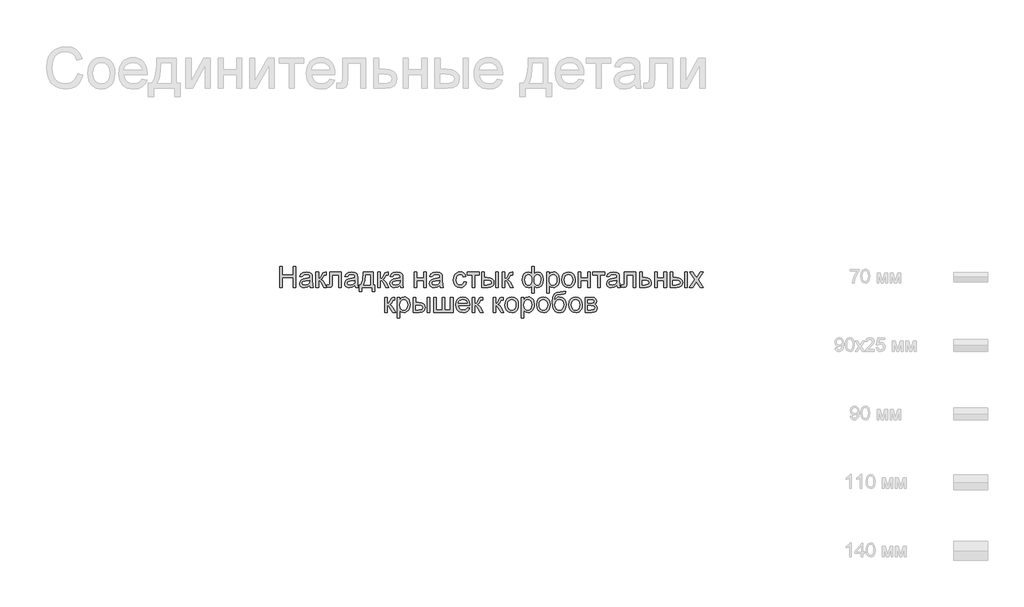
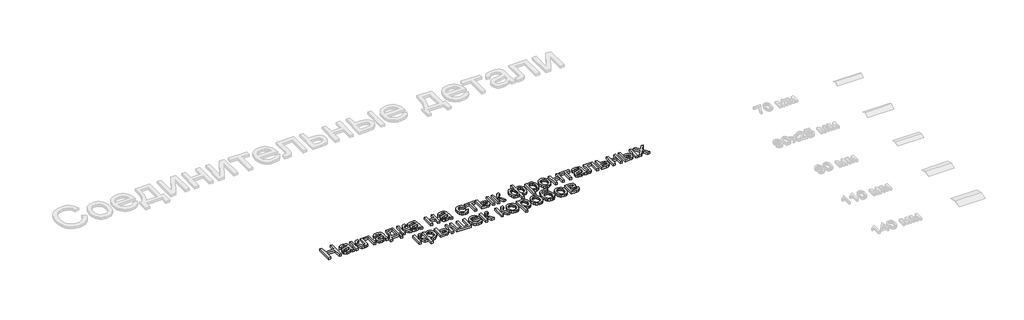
# One storey, part 33 of 48: 1 proxy.
"""IFC4 building model written with IfcOpenShell, lengths in millimetres."""

from ifc_helpers import new_model, si_unit, origin, origin_with_axes, place, context, project, spatial, polyline, outline, extrude, element, save

model = new_model("IFC4")

# Units and contexts
model_context = context("Model", 3, world=origin())
ifc_project = project(units=[si_unit("LENGTHUNIT", "METRE", prefix="MILLI")], contexts=[model_context])

# Site, building, storey
site = spatial("IfcSite", under=ifc_project)
building = spatial("IfcBuilding", under=site)
storey = spatial("IfcBuildingStorey", under=building, Name="Этаж 01", Elevation=0.0)

# Proxy
placement = place(None, origin())
element("IfcBuildingElementProxy", 1, Name="150 мм Arial", ObjectType="150 мм Arial", at=placement, inside=storey, context=model_context, shape_type="SweptSolid", body=[
    extrude(outline(polyline([(8118.0593772, 4444.1365557), (8118.0593772, 4594.8210209), (8136.8949354, 4594.8210209), (8136.8949354, 4533.6054569), (8216.9460575, 4533.6054569), (8216.9460575, 4594.8210209), (8235.7816157, 4594.8210209), (8235.7816157, 4444.1365557), (8216.9460575, 4444.1365557), (8216.9460575, 4514.7698987), (8136.8949354, 4514.7698987), (8136.8949354, 4444.1365557), (8118.0593772, 4444.1365557)])), origin_with_axes(), (0.0, 0.0, 1.0), 20.0),
    extrude(outline(polyline([(8337.0227407, 4458.2632243), (8318.7573997, 4445.4977191), (8298.5790722, 4441.7821109), (8282.8383214, 4444.016994), (8271.2270459, 4450.7216434), (8264.0671426, 4460.9027776), (8261.6805081, 4473.5671153), (8265.2857517, 4488.4663361), (8274.7587131, 4499.2820668), (8287.9472826, 4505.4624843), (8304.244455, 4508.2951756), (8336.9123761, 4514.7698987), (8337.0227407, 4518.9637535), (8335.7259567, 4527.3698571), (8331.8356046, 4532.8696929), (8323.1351954, 4536.9531831), (8311.0134837, 4538.3143464), (8291.9571963, 4534.6907088), (8282.8705111, 4521.8332331), (8264.0349529, 4524.1876778), (8272.1835391, 4542.5817776), (8288.5910761, 4553.36072), (8313.4415048, 4557.1499046), (8336.2685827, 4553.8021784), (8349.1628466, 4545.3960748), (8354.9385939, 4532.6121755), (8355.8582989, 4516.1310621), (8355.8582989, 4492.696979), (8356.8147921, 4459.9738756), (8360.5671884, 4444.1365557), (8341.7316303, 4444.1365557), (8337.0227407, 4458.2632243)]), holes=[polyline([(8337.0227407, 4495.9343406), (8306.6356879, 4490.1585933), (8290.4304861, 4487.1051727), (8283.0912402, 4482.1387658), (8280.5160663, 4474.8914905), (8286.1262667, 4464.7011592), (8302.588986, 4460.6176691), (8321.6452733, 4465.1242235), (8333.932532, 4476.0319247), (8336.9123761, 4490.6000517), (8337.0227407, 4495.9343406)])]), origin_with_axes(), (0.0, 0.0, 1.0), 20.0),
    extrude(outline(polyline([(8482.9983164, 4554.7954598), (8567.7583281, 4554.7954598), (8567.7583281, 4444.2469203), (8548.92277, 4444.2469203), (8548.92277, 4535.9599017), (8501.8338746, 4535.9599017), (8501.8338746, 4483.1688354), (8500.5646817, 4458.8150473), (8493.5933179, 4448.5327455), (8477.1122045, 4444.1365557), (8461.8083135, 4445.0930489), (8461.8083135, 4462.9721138), (8470.2328112, 4462.9721138), (8478.7492794, 4464.1309421), (8482.1521878, 4467.8097621), (8482.9983164, 4484.2356931), (8482.9983164, 4554.7954598)])), origin_with_axes(), (0.0, 0.0, 1.0), 20.0),
    extrude(outline(polyline([(8381.7571914, 4554.7954598), (8400.5927495, 4554.7954598), (8400.5927495, 4507.7065644), (8413.2111019, 4511.0910788), (8423.548586, 4530.8095537), (8432.1386306, 4547.824096), (8439.7169997, 4553.36072), (8453.4941804, 4554.7954598), (8457.099424, 4554.7954598), (8457.099424, 4535.8495371), (8452.0226524, 4535.9599017), (8442.8256026, 4533.9733389), (8436.3508794, 4521.5757157), (8428.7541162, 4508.1664169), (8418.1039325, 4501.5997233), (8429.9865209, 4494.2696746), (8441.6483802, 4478.8278278), (8461.8083135, 4444.1365557), (8440.3975814, 4444.1365557), (8420.6423182, 4478.0920638), (8410.7095044, 4492.4578557), (8400.5927495, 4495.9343406), (8400.5927495, 4444.1365557), (8381.7571914, 4444.1365557), (8381.7571914, 4554.7954598)])), origin_with_axes(), (0.0, 0.0, 1.0), 20.0),
    extrude(outline(polyline([(8666.6450084, 4458.2632243), (8648.3796674, 4445.4977191), (8628.2013399, 4441.7821109), (8612.4605891, 4444.016994), (8600.8493136, 4450.7216434), (8593.6894103, 4460.9027776), (8591.3027758, 4473.5671153), (8594.9080194, 4488.4663361), (8604.3809807, 4499.2820668), (8617.5695503, 4505.4624843), (8633.8667226, 4508.2951756), (8666.5346438, 4514.7698987), (8666.6450084, 4518.9637535), (8665.3482244, 4527.3698571), (8661.4578723, 4532.8696929), (8652.7574631, 4536.9531831), (8640.6357514, 4538.3143464), (8621.579464, 4534.6907088), (8612.4927787, 4521.8332331), (8593.6572206, 4524.1876778), (8601.8058068, 4542.5817776), (8618.2133438, 4553.36072), (8643.0637725, 4557.1499046), (8665.8908503, 4553.8021784), (8678.7851143, 4545.3960748), (8684.5608616, 4532.6121755), (8685.4805666, 4516.1310621), (8685.4805666, 4492.696979), (8686.4370598, 4459.9738756), (8690.1894561, 4444.1365557), (8671.353898, 4444.1365557), (8666.6450084, 4458.2632243)]), holes=[polyline([(8666.6450084, 4495.9343406), (8636.2579556, 4490.1585933), (8620.0527537, 4487.1051727), (8612.7135079, 4482.1387658), (8610.138334, 4474.8914905), (8615.7485344, 4464.7011592), (8632.2112537, 4460.6176691), (8651.267541, 4465.1242235), (8663.5547997, 4476.0319247), (8666.5346438, 4490.6000517), (8666.6450084, 4495.9343406)])]), origin_with_axes(), (0.0, 0.0, 1.0), 20.0),
    extrude(outline(polyline([(8727.8605724, 4554.7954598), (8798.4939155, 4554.7954598), (8798.4939155, 4462.9721138), (8812.6205841, 4462.9721138), (8812.6205841, 4413.5287737), (8793.785026, 4413.5287737), (8793.785026, 4444.1365557), (8716.0883486, 4444.1365557), (8716.0883486, 4413.5287737), (8697.2527904, 4413.5287737), (8697.2527904, 4462.9721138), (8709.0250143, 4462.9721138), (8717.5828692, 4478.4369532), (8723.5747472, 4498.8957907), (8727.8605724, 4554.7954598)]), holes=[polyline([(8744.3416858, 4535.9599017), (8739.9271019, 4493.0464669), (8730.2150172, 4462.9721138), (8779.6583573, 4462.9721138), (8779.6583573, 4535.9599017), (8744.3416858, 4535.9599017)])]), origin_with_axes(), (0.0, 0.0, 1.0), 20.0),
    extrude(outline(polyline([(8833.810587, 4554.7954598), (8852.6461452, 4554.7954598), (8852.6461452, 4507.7065644), (8865.2644976, 4511.0910788), (8875.6019817, 4530.8095537), (8884.1920263, 4547.824096), (8891.7703954, 4553.36072), (8905.5475761, 4554.7954598), (8909.1528196, 4554.7954598), (8909.1528196, 4535.8495371), (8904.0760481, 4535.9599017), (8894.8789982, 4533.9733389), (8888.4042751, 4521.5757157), (8880.8075119, 4508.1664169), (8870.1573282, 4501.5997233), (8882.0399166, 4494.2696746), (8893.7017758, 4478.8278278), (8913.8617092, 4444.1365557), (8892.4509771, 4444.1365557), (8872.6957139, 4478.0920638), (8862.7629, 4492.4578557), (8852.6461452, 4495.9343406), (8852.6461452, 4444.1365557), (8833.810587, 4444.1365557), (8833.810587, 4554.7954598)])), origin_with_axes(), (0.0, 0.0, 1.0), 20.0),
    extrude(outline(polyline([(8996.2672761, 4458.2632243), (8978.001935, 4445.4977191), (8957.8236076, 4441.7821109), (8942.0828567, 4444.016994), (8930.4715813, 4450.7216434), (8923.3116779, 4460.9027776), (8920.9250435, 4473.5671153), (8924.530287, 4488.4663361), (8934.0032484, 4499.2820668), (8947.1918179, 4505.4624843), (8963.4889903, 4508.2951756), (8996.1569115, 4514.7698987), (8996.2672761, 4518.9637535), (8994.9704921, 4527.3698571), (8991.08014, 4532.8696929), (8982.3797308, 4536.9531831), (8970.258019, 4538.3143464), (8951.2017317, 4534.6907088), (8942.1150464, 4521.8332331), (8923.2794883, 4524.1876778), (8931.4280744, 4542.5817776), (8947.8356114, 4553.36072), (8972.6860402, 4557.1499046), (8995.513118, 4553.8021784), (9008.4073819, 4545.3960748), (9014.1831293, 4532.6121755), (9015.1028343, 4516.1310621), (9015.1028343, 4492.696979), (9016.0593274, 4459.9738756), (9019.8117238, 4444.1365557), (9000.9761656, 4444.1365557), (8996.2672761, 4458.2632243)]), holes=[polyline([(8996.2672761, 4495.9343406), (8965.8802233, 4490.1585933), (8949.6750214, 4487.1051727), (8942.3357756, 4482.1387658), (8939.7606016, 4474.8914905), (8945.3708021, 4464.7011592), (8961.8335213, 4460.6176691), (8980.8898087, 4465.1242235), (8993.1770673, 4476.0319247), (8996.1569115, 4490.6000517), (8996.2672761, 4495.9343406)])]), origin_with_axes(), (0.0, 0.0, 1.0), 20.0),
    extrude(outline(polyline([(9099.8628459, 4554.7954598), (9118.6984041, 4554.7954598), (9118.6984041, 4512.415454), (9168.1417442, 4512.415454), (9168.1417442, 4554.7954598), (9186.9773024, 4554.7954598), (9186.9773024, 4444.1365557), (9168.1417442, 4444.1365557), (9168.1417442, 4493.5798958), (9118.6984041, 4493.5798958), (9118.6984041, 4444.1365557), (9099.8628459, 4444.1365557), (9099.8628459, 4554.7954598)])), origin_with_axes(), (0.0, 0.0, 1.0), 20.0),
    extrude(outline(polyline([(9285.8639827, 4458.2632243), (9267.5986416, 4445.4977191), (9247.4203142, 4441.7821109), (9231.6795633, 4444.016994), (9220.0682879, 4450.7216434), (9212.9083845, 4460.9027776), (9210.5217501, 4473.5671153), (9214.1269936, 4488.4663361), (9223.599955, 4499.2820668), (9236.7885245, 4505.4624843), (9253.0856969, 4508.2951756), (9285.7536181, 4514.7698987), (9285.8639827, 4518.9637535), (9284.5671987, 4527.3698571), (9280.6768466, 4532.8696929), (9271.9764374, 4536.9531831), (9259.8547256, 4538.3143464), (9240.7984383, 4534.6907088), (9231.711753, 4521.8332331), (9212.8761949, 4524.1876778), (9221.0247811, 4542.5817776), (9237.432318, 4553.36072), (9262.2827468, 4557.1499046), (9285.1098246, 4553.8021784), (9298.0040885, 4545.3960748), (9303.7798359, 4532.6121755), (9304.6995409, 4516.1310621), (9304.6995409, 4492.696979), (9305.656034, 4459.9738756), (9309.4084304, 4444.1365557), (9290.5728722, 4444.1365557), (9285.8639827, 4458.2632243)]), holes=[polyline([(9285.8639827, 4495.9343406), (9255.4769299, 4490.1585933), (9239.271728, 4487.1051727), (9231.9324822, 4482.1387658), (9229.3573082, 4474.8914905), (9234.9675087, 4464.7011592), (9251.430228, 4460.6176691), (9270.4865153, 4465.1242235), (9282.7737739, 4476.0319247), (9285.7536181, 4490.6000517), (9285.8639827, 4495.9343406)])]), origin_with_axes(), (0.0, 0.0, 1.0), 20.0),
    extrude(outline(polyline([(9460.0928956, 4484.1621167), (9478.9284538, 4481.807672), (9473.6769383, 4465.0552456), (9463.8085038, 4452.3955065), (9450.2520522, 4444.4354598), (9433.9364858, 4441.7821109), (9413.9007126, 4445.4839235), (9398.2335381, 4456.5893612), (9388.1213818, 4474.6109804), (9384.750663, 4499.0613376), (9386.1900013, 4515.822961), (9390.5080162, 4530.3497012), (9397.7736856, 4542.0805384), (9408.0559874, 4550.4544523), (9420.3570416, 4555.4760415), (9433.6789684, 4557.1499046), (9449.5944632, 4554.8506421), (9462.3185817, 4547.9528547), (9471.4466537, 4536.8244244), (9476.574009, 4521.8332331), (9457.7384508, 4519.4787883), (9449.0012535, 4533.5870628), (9433.8261212, 4538.3143464), (9421.6538256, 4535.9874928), (9411.9923247, 4529.006932), (9405.6877471, 4516.9955848), (9403.5862212, 4499.5763723), (9405.6417618, 4481.9226351), (9411.8083837, 4469.8699012), (9421.2951407, 4462.9307271), (9433.3110864, 4460.6176691), (9443.0645578, 4462.0616059), (9451.0613926, 4466.3934164), (9456.8785267, 4473.7234651), (9460.0928956, 4484.1621167)])), origin_with_axes(), (0.0, 0.0, 1.0), 20.0),
    extrude(outline(polyline([(9485.9917881, 4554.7954598), (9575.4606893, 4554.7954598), (9575.4606893, 4535.9599017), (9540.1440178, 4535.9599017), (9540.1440178, 4444.1365557), (9521.3084596, 4444.1365557), (9521.3084596, 4535.9599017), (9485.9917881, 4535.9599017), (9485.9917881, 4554.7954598)])), origin_with_axes(), (0.0, 0.0, 1.0), 20.0),
    extrude(outline(polyline([(9695.5373725, 4554.7954598), (9714.3729307, 4554.7954598), (9714.3729307, 4444.1365557), (9695.5373725, 4444.1365557), (9695.5373725, 4554.7954598)])), origin_with_axes(), (0.0, 0.0, 1.0), 20.0),
    extrude(outline(polyline([(9591.9418027, 4554.7954598), (9610.7773608, 4554.7954598), (9610.7773608, 4514.7698987), (9634.0642911, 4514.7698987), (9654.1920348, 4512.4108555), (9669.1050512, 4505.3337256), (9678.3342907, 4494.1087262), (9681.4107039, 4479.3060744), (9678.8309314, 4465.8277978), (9671.0916139, 4454.4556456), (9657.6869138, 4446.7163282), (9638.1109931, 4444.1365557), (9591.9418027, 4444.1365557), (9591.9418027, 4554.7954598)]), holes=[polyline([(9610.7773608, 4462.9721138), (9630.1279538, 4462.9721138), (9655.1071413, 4466.9268453), (9660.7081446, 4471.9898212), (9662.5751458, 4479.2692862), (9657.0385217, 4490.8575691), (9648.1587701, 4494.6651477), (9632.5927632, 4495.9343406), (9610.7773608, 4495.9343406), (9610.7773608, 4462.9721138)])]), origin_with_axes(), (0.0, 0.0, 1.0), 20.0),
    extrude(outline(polyline([(9742.6262679, 4554.7954598), (9761.4618261, 4554.7954598), (9761.4618261, 4507.7065644), (9774.0801785, 4511.0910788), (9784.4176626, 4530.8095537), (9793.0077072, 4547.824096), (9800.5860763, 4553.36072), (9814.363257, 4554.7954598), (9817.9685005, 4554.7954598), (9817.9685005, 4535.8495371), (9812.891729, 4535.9599017), (9803.6946791, 4533.9733389), (9797.219956, 4521.5757157), (9789.6231928, 4508.1664169), (9778.973009, 4501.5997233), (9790.8555975, 4494.2696746), (9802.5174567, 4478.8278278), (9822.6773901, 4444.1365557), (9801.2666579, 4444.1365557), (9781.5113948, 4478.0920638), (9771.5785809, 4492.4578557), (9761.4618261, 4495.9343406), (9761.4618261, 4444.1365557), (9742.6262679, 4444.1365557), (9742.6262679, 4554.7954598)])), origin_with_axes(), (0.0, 0.0, 1.0), 20.0),
    extrude(outline(polyline([(9956.8807419, 4594.8210209), (9975.7163001, 4594.8210209), (9975.7163001, 4544.1636702), (9987.690859, 4553.9309371), (10001.7255571, 4557.1499046), (10018.211269, 4553.0572174), (10030.8802052, 4540.7791558), (10038.9506165, 4522.2930855), (10041.6407536, 4499.5763723), (10038.7436829, 4476.1652819), (10030.0524707, 4457.7297954), (10017.0570393, 4445.769032), (10001.2473105, 4441.7821109), (9989.7326041, 4443.6215209), (9975.7163001, 4453.6646993), (9975.7163001, 4401.7565498), (9956.8807419, 4401.7565498), (9956.8807419, 4453.6646993), (9944.8510007, 4444.7619551), (9930.6139674, 4441.7821109), (9914.8318299, 4445.5896896), (9901.1834078, 4457.0124255), (9891.7472347, 4475.5260869), (9888.6018436, 4500.6064419), (9891.4483305, 4522.6885587), (9899.9877913, 4540.8895204), (9913.3373092, 4553.0848085), (9930.6139674, 4557.1499046), (9945.2004886, 4553.9309371), (9956.8807419, 4544.1636702), (9956.8807419, 4594.8210209)]), holes=[polyline([(9975.6059355, 4499.134914), (9977.1740325, 4480.064831), (9981.8783235, 4468.4719497), (9988.9462563, 4462.5812392), (9997.6052788, 4460.6176691), (10007.2851738, 4463.0318947), (10015.4291614, 4470.2745714), (10020.9611869, 4482.6032168), (10022.8051954, 4500.2753481), (10021.1037412, 4517.032373), (10015.9993785, 4528.8965674), (10008.2278714, 4535.9599017), (9998.5249838, 4538.3143464), (9988.5323891, 4535.8633326), (9981.3632887, 4528.5102913), (9977.0452738, 4516.2644194), (9975.6059355, 4499.134914)]), polyline([(9907.4374018, 4501.0111121), (9909.322797, 4482.5342389), (9914.9789827, 4470.0722363), (9923.4310715, 4462.9813109), (9933.7041762, 4460.6176691), (9943.9266971, 4462.9675153), (9951.1969651, 4470.017054), (9955.5425711, 4481.7662853), (9956.9911065, 4498.215209), (9955.4689947, 4515.7585816), (9950.9026595, 4528.2895621), (9943.2645096, 4535.8081503), (9932.5269538, 4538.3143464), (9922.4469872, 4535.8679312), (9914.4271597, 4528.5286854), (9909.1848412, 4516.7564615), (9907.4374018, 4501.0111121)])]), origin_with_axes(), (0.0, 0.0, 1.0), 20.0),
    extrude(outline(polyline([(10065.1852013, 4401.7565498), (10065.1852013, 4554.7954598), (10084.0207594, 4554.7954598), (10084.0207594, 4536.3277837), (10097.0437821, 4551.9443744), (10114.6285414, 4557.1499046), (10127.3664555, 4555.3288887), (10138.5040829, 4549.8658411), (10147.5723741, 4541.0918555), (10154.1022795, 4529.3380258), (10159.362992, 4500.3121363), (10157.8776685, 4484.2035035), (10153.4216978, 4469.7963248), (10146.1376343, 4457.8217659), (10136.1680323, 4449.0109921), (10124.5567568, 4443.5893312), (10112.3476731, 4441.7821109), (10095.9585302, 4446.6197591), (10084.0207594, 4458.8518355), (10084.0207594, 4401.7565498), (10065.1852013, 4401.7565498)]), holes=[polyline([(10084.0207594, 4498.583091), (10086.057906, 4481.6973074), (10092.1693456, 4469.8882953), (10101.187053, 4462.9353256), (10111.9430029, 4460.6176691), (10122.8736967, 4463.0180991), (10132.1213303, 4470.2193891), (10138.425908, 4482.4606625), (10140.5274339, 4499.9810425), (10138.4764918, 4516.7748556), (10132.3236654, 4528.7494146), (10123.3197536, 4535.9231135), (10112.7155551, 4538.3143464), (10102.0699698, 4535.7713621), (10092.7211686, 4528.1424093), (10086.1958617, 4515.6666111), (10084.0207594, 4498.583091)])]), origin_with_axes(), (0.0, 0.0, 1.0), 20.0),
    extrude(outline(polyline([(10175.8441054, 4499.4660077), (10179.9183985, 4526.1466494), (10192.1412778, 4544.8994342), (10207.2428337, 4554.087287), (10225.3242338, 4557.1499046), (10245.1116866, 4553.4205009), (10260.9168168, 4542.2322897), (10271.2772935, 4524.4681878), (10274.7307857, 4501.0111121), (10273.2040755, 4481.9824159), (10268.6239446, 4467.4970624), (10261.1237504, 4456.649142), (10250.8368501, 4448.5327455), (10238.6185694, 4443.4697696), (10225.3242338, 4441.7821109), (10205.2976577, 4445.4977191), (10189.5109216, 4456.6445435), (10179.2608095, 4474.7811259), (10175.8441054, 4499.4660077)]), holes=[polyline([(10194.6796636, 4499.5027959), (10196.8593644, 4482.456064), (10203.3984669, 4470.3113596), (10213.2393102, 4463.0410917), (10225.3242338, 4460.6176691), (10237.353975, 4463.0548873), (10247.1764243, 4470.3665419), (10253.7155268, 4482.6721947), (10255.8952276, 4500.0914071), (10253.7017312, 4516.6414984), (10247.121242, 4528.6206559), (10237.2849972, 4535.8909238), (10225.3242338, 4538.3143464), (10213.2393102, 4535.9001208), (10203.3984669, 4528.6574441), (10196.8593644, 4516.5403309), (10194.6796636, 4499.5027959)])]), origin_with_axes(), (0.0, 0.0, 1.0), 20.0),
    extrude(outline(polyline([(10295.9207887, 4554.7954598), (10314.7563468, 4554.7954598), (10314.7563468, 4512.415454), (10364.199687, 4512.415454), (10364.199687, 4554.7954598), (10383.0352451, 4554.7954598), (10383.0352451, 4444.1365557), (10364.199687, 4444.1365557), (10364.199687, 4493.5798958), (10314.7563468, 4493.5798958), (10314.7563468, 4444.1365557), (10295.9207887, 4444.1365557), (10295.9207887, 4554.7954598)])), origin_with_axes(), (0.0, 0.0, 1.0), 20.0),
    extrude(outline(polyline([(10401.8708033, 4554.7954598), (10491.3397045, 4554.7954598), (10491.3397045, 4535.9599017), (10456.023033, 4535.9599017), (10456.023033, 4444.1365557), (10437.1874748, 4444.1365557), (10437.1874748, 4535.9599017), (10401.8708033, 4535.9599017), (10401.8708033, 4554.7954598)])), origin_with_axes(), (0.0, 0.0, 1.0), 20.0),
    extrude(outline(polyline([(10578.454161, 4458.2632243), (10560.1888199, 4445.4977191), (10540.0104925, 4441.7821109), (10524.2697416, 4444.016994), (10512.6584661, 4450.7216434), (10505.4985628, 4460.9027776), (10503.1119283, 4473.5671153), (10506.7171719, 4488.4663361), (10516.1901333, 4499.2820668), (10529.3787028, 4505.4624843), (10545.6758752, 4508.2951756), (10578.3437964, 4514.7698987), (10578.454161, 4518.9637535), (10577.1573769, 4527.3698571), (10573.2670248, 4532.8696929), (10564.5666156, 4536.9531831), (10552.4449039, 4538.3143464), (10533.3886165, 4534.6907088), (10524.3019313, 4521.8332331), (10505.4663731, 4524.1876778), (10513.6149593, 4542.5817776), (10530.0224963, 4553.36072), (10554.8729251, 4557.1499046), (10577.7000029, 4553.8021784), (10590.5942668, 4545.3960748), (10596.3700141, 4532.6121755), (10597.2897191, 4516.1310621), (10597.2897191, 4492.696979), (10598.2462123, 4459.9738756), (10601.9986086, 4444.1365557), (10583.1630505, 4444.1365557), (10578.454161, 4458.2632243)]), holes=[polyline([(10578.454161, 4495.9343406), (10548.0671082, 4490.1585933), (10531.8619063, 4487.1051727), (10524.5226605, 4482.1387658), (10521.9474865, 4474.8914905), (10527.5576869, 4464.7011592), (10544.0204062, 4460.6176691), (10563.0766936, 4465.1242235), (10575.3639522, 4476.0319247), (10578.3437964, 4490.6000517), (10578.454161, 4495.9343406)])]), origin_with_axes(), (0.0, 0.0, 1.0), 20.0),
    extrude(outline(polyline([(10632.6063906, 4554.7954598), (10717.3664023, 4554.7954598), (10717.3664023, 4444.2469203), (10698.5308442, 4444.2469203), (10698.5308442, 4535.9599017), (10651.4419488, 4535.9599017), (10651.4419488, 4483.1688354), (10650.1727559, 4458.8150473), (10643.2013921, 4448.5327455), (10626.7202787, 4444.1365557), (10611.4163877, 4445.0930489), (10611.4163877, 4462.9721138), (10619.8408854, 4462.9721138), (10628.3573536, 4464.1309421), (10631.7602621, 4467.8097621), (10632.6063906, 4484.2356931), (10632.6063906, 4554.7954598)])), origin_with_axes(), (0.0, 0.0, 1.0), 20.0),
    extrude(outline(polyline([(10745.6197396, 4554.7954598), (10764.4552977, 4554.7954598), (10764.4552977, 4514.7698987), (10786.1603354, 4514.7698987), (10804.9774995, 4512.4108555), (10818.901833, 4505.3337256), (10827.5102717, 4494.1087262), (10830.3797513, 4479.3060744), (10827.9379345, 4465.8277978), (10820.6124843, 4454.4556456), (10807.9159569, 4446.7163282), (10789.3609088, 4444.1365557), (10745.6197396, 4444.1365557), (10745.6197396, 4554.7954598)]), holes=[polyline([(10764.4552977, 4462.9721138), (10782.0400571, 4462.9721138), (10804.7567703, 4466.9268453), (10809.8473374, 4471.9898212), (10811.5441931, 4479.2692862), (10806.5226039, 4490.8575691), (10798.4521926, 4494.6651477), (10784.2841373, 4495.9343406), (10764.4552977, 4495.9343406), (10764.4552977, 4462.9721138)])]), origin_with_axes(), (0.0, 0.0, 1.0), 20.0),
    extrude(outline(polyline([(10853.9241989, 4554.7954598), (10872.7597571, 4554.7954598), (10872.7597571, 4512.415454), (10922.2030972, 4512.415454), (10922.2030972, 4554.7954598), (10941.0386554, 4554.7954598), (10941.0386554, 4444.1365557), (10922.2030972, 4444.1365557), (10922.2030972, 4493.5798958), (10872.7597571, 4493.5798958), (10872.7597571, 4444.1365557), (10853.9241989, 4444.1365557), (10853.9241989, 4554.7954598)])), origin_with_axes(), (0.0, 0.0, 1.0), 20.0),
    extrude(outline(polyline([(11072.8875625, 4554.7954598), (11091.7231206, 4554.7954598), (11091.7231206, 4444.1365557), (11072.8875625, 4444.1365557), (11072.8875625, 4554.7954598)])), origin_with_axes(), (0.0, 0.0, 1.0), 20.0),
    extrude(outline(polyline([(10969.2919926, 4554.7954598), (10988.1275508, 4554.7954598), (10988.1275508, 4514.7698987), (11011.4144811, 4514.7698987), (11031.5422247, 4512.4108555), (11046.4552411, 4505.3337256), (11055.6844807, 4494.1087262), (11058.7608939, 4479.3060744), (11056.1811214, 4465.8277978), (11048.4418039, 4454.4556456), (11035.0371037, 4446.7163282), (11015.461183, 4444.1365557), (10969.2919926, 4444.1365557), (10969.2919926, 4554.7954598)]), holes=[polyline([(10988.1275508, 4462.9721138), (11007.4781437, 4462.9721138), (11032.4573312, 4466.9268453), (11038.0583346, 4471.9898212), (11039.9253357, 4479.2692862), (11034.3887117, 4490.8575691), (11025.50896, 4494.6651477), (11009.9429531, 4495.9343406), (10988.1275508, 4495.9343406), (10988.1275508, 4462.9721138)])]), origin_with_axes(), (0.0, 0.0, 1.0), 20.0),
    extrude(outline(polyline([(11108.204234, 4444.1365557), (11148.4505243, 4499.7603133), (11110.5586788, 4554.7954598), (11133.2202097, 4554.7954598), (11151.5039448, 4528.3079562), (11160.0388071, 4515.7999683), (11167.4332352, 4526.0270878), (11188.2553562, 4554.7954598), (11210.9168871, 4554.7954598), (11171.1120552, 4499.7603133), (11209.4453591, 4444.1365557), (11186.7838282, 4444.1365557), (11163.7176271, 4477.577029), (11159.4869841, 4483.6838702), (11130.8657649, 4444.1365557), (11108.204234, 4444.1365557)])), origin_with_axes(), (0.0, 0.0, 1.0), 20.0),
    extrude(outline(polyline([(8883.2539272, 4371.8332331), (8902.0894853, 4371.8332331), (8902.0894853, 4324.7443377), (8914.7078378, 4328.128852), (8925.0453218, 4347.847327), (8933.6353664, 4364.8618692), (8941.2137355, 4370.3984933), (8954.9909162, 4371.8332331), (8958.5961598, 4371.8332331), (8958.5961598, 4352.8873103), (8953.5193883, 4352.9976749), (8944.3223384, 4351.0111121), (8937.8476153, 4338.6134889), (8930.2508521, 4325.2041902), (8919.6006683, 4318.6374966), (8931.4832567, 4311.3074478), (8943.145116, 4295.8656011), (8963.3050493, 4261.1743289), (8941.8943172, 4261.1743289), (8922.1390541, 4295.1298371), (8912.2062402, 4309.495629), (8902.0894853, 4312.9721138), (8902.0894853, 4261.1743289), (8883.2539272, 4261.1743289), (8883.2539272, 4371.8332331)])), origin_with_axes(), (0.0, 0.0, 1.0), 20.0),
    extrude(outline(polyline([(8975.0772732, 4218.7943231), (8975.0772732, 4371.8332331), (8993.9128313, 4371.8332331), (8993.9128313, 4353.3655569), (9006.935854, 4368.9821476), (9024.5206133, 4374.1876778), (9037.2585274, 4372.3666619), (9048.3961548, 4366.9036143), (9057.464446, 4358.1296287), (9063.9943514, 4346.375799), (9069.2550639, 4317.3499096), (9067.7697404, 4301.2412767), (9063.3137697, 4286.8340981), (9056.0297062, 4274.8595391), (9046.0601041, 4266.0487653), (9034.4488287, 4260.6271044), (9022.239745, 4258.8198841), (9005.8506021, 4263.6575324), (8993.9128313, 4275.8896087), (8993.9128313, 4218.7943231), (8975.0772732, 4218.7943231)]), holes=[polyline([(8993.9128313, 4315.6208642), (8995.9499779, 4298.7350806), (9002.0614175, 4286.9260686), (9011.0791249, 4279.9730989), (9021.8350748, 4277.6554423), (9032.7657685, 4280.0558723), (9042.0134022, 4287.2571624), (9048.3179799, 4299.4984358), (9050.4195058, 4317.0188158), (9048.3685637, 4333.8126289), (9042.2157373, 4345.7871878), (9033.2118255, 4352.9608867), (9022.607627, 4355.3521197), (9011.9620417, 4352.8091354), (9002.6132405, 4345.1801825), (8996.0879336, 4332.7043843), (8993.9128313, 4315.6208642)])]), origin_with_axes(), (0.0, 0.0, 1.0), 20.0),
    extrude(outline(polyline([(9194.0406367, 4371.8332331), (9212.8761949, 4371.8332331), (9212.8761949, 4261.1743289), (9194.0406367, 4261.1743289), (9194.0406367, 4371.8332331)])), origin_with_axes(), (0.0, 0.0, 1.0), 20.0),
    extrude(outline(polyline([(9090.4450669, 4371.8332331), (9109.280625, 4371.8332331), (9109.280625, 4331.807672), (9132.5675553, 4331.807672), (9152.695299, 4329.4486287), (9167.6083154, 4322.3714988), (9176.8375549, 4311.1464994), (9179.9139681, 4296.3438476), (9177.3341956, 4282.865571), (9169.5948781, 4271.4934189), (9156.1901779, 4263.7541014), (9136.6142573, 4261.1743289), (9090.4450669, 4261.1743289), (9090.4450669, 4371.8332331)]), holes=[polyline([(9109.280625, 4280.0098871), (9128.631218, 4280.0098871), (9153.6104054, 4283.9646185), (9159.2114088, 4289.0275945), (9161.0784099, 4296.3070594), (9155.5417859, 4307.8953423), (9146.6620343, 4311.7029209), (9131.0960273, 4312.9721138), (9109.280625, 4312.9721138), (9109.280625, 4280.0098871)])]), origin_with_axes(), (0.0, 0.0, 1.0), 20.0),
    extrude(outline(polyline([(9241.1295321, 4371.8332331), (9259.9650902, 4371.8332331), (9259.9650902, 4280.0098871), (9302.3450961, 4280.0098871), (9302.3450961, 4371.8332331), (9321.1806542, 4371.8332331), (9321.1806542, 4280.0098871), (9363.5606601, 4280.0098871), (9363.5606601, 4371.8332331), (9382.3962182, 4371.8332331), (9382.3962182, 4261.1743289), (9241.1295321, 4261.1743289), (9241.1295321, 4371.8332331)])), origin_with_axes(), (0.0, 0.0, 1.0), 20.0),
    extrude(outline(polyline([(9485.7710589, 4294.1365557), (9504.238735, 4291.7821109), (9497.5846694, 4277.8669744), (9486.9666754, 4267.465111), (9472.6238761, 4260.9811909), (9454.7953949, 4258.8198841), (9432.694884, 4262.5492879), (9415.6895388, 4273.737499), (9404.846217, 4291.6579507), (9401.2317764, 4315.584076), (9404.8830052, 4340.3149431), (9415.8366916, 4358.8102104), (9432.6121106, 4370.343311), (9453.7285371, 4374.1876778), (9474.1873746, 4370.352508), (9490.5351307, 4358.8469986), (9501.2542924, 4340.3885195), (9504.8273462, 4315.6944406), (9504.7169816, 4310.6176691), (9420.0673345, 4310.6176691), (9423.3276887, 4296.5185916), (9430.9014593, 4286.1535164), (9441.8321531, 4279.7799608), (9455.1632769, 4277.6554423), (9473.630953, 4281.5917796), (9485.7710589, 4294.1365557)]), holes=[polyline([(9420.0673345, 4329.4532272), (9485.9917881, 4329.4532272), (9483.4442053, 4339.4044352), (9478.4502072, 4346.5229518), (9467.4689296, 4353.1448277), (9453.6549607, 4355.3521197), (9440.9584333, 4353.5908846), (9430.4600009, 4348.3071795), (9423.1621418, 4340.0712213), (9420.0673345, 4329.4532272)])]), origin_with_axes(), (0.0, 0.0, 1.0), 20.0),
    extrude(outline(polyline([(9523.6629044, 4371.8332331), (9542.4984625, 4371.8332331), (9542.4984625, 4324.7443377), (9555.116815, 4328.128852), (9565.454299, 4347.847327), (9574.0443436, 4364.8618692), (9581.6227127, 4370.3984933), (9595.3998934, 4371.8332331), (9599.005137, 4371.8332331), (9599.005137, 4352.8873103), (9593.9283655, 4352.9976749), (9584.7313156, 4351.0111121), (9578.2565925, 4338.6134889), (9570.6598293, 4325.2041902), (9560.0096455, 4318.6374966), (9571.892234, 4311.3074478), (9583.5540932, 4295.8656011), (9603.7140265, 4261.1743289), (9582.3032944, 4261.1743289), (9562.5480313, 4295.1298371), (9552.6152174, 4309.495629), (9542.4984625, 4312.9721138), (9542.4984625, 4261.1743289), (9523.6629044, 4261.1743289), (9523.6629044, 4371.8332331)])), origin_with_axes(), (0.0, 0.0, 1.0), 20.0),
    extrude(outline(polyline([(9674.3473696, 4371.8332331), (9693.1829278, 4371.8332331), (9693.1829278, 4324.7443377), (9705.8012802, 4328.128852), (9716.1387643, 4347.847327), (9724.7288088, 4364.8618692), (9732.3071779, 4370.3984933), (9746.0843587, 4371.8332331), (9749.6896022, 4371.8332331), (9749.6896022, 4352.8873103), (9744.6128307, 4352.9976749), (9735.4157808, 4351.0111121), (9728.9410577, 4338.6134889), (9721.3442945, 4325.2041902), (9710.6941107, 4318.6374966), (9722.5766992, 4311.3074478), (9734.2385584, 4295.8656011), (9754.3984918, 4261.1743289), (9732.9877596, 4261.1743289), (9713.2324965, 4295.1298371), (9703.2996826, 4309.495629), (9693.1829278, 4312.9721138), (9693.1829278, 4261.1743289), (9674.3473696, 4261.1743289), (9674.3473696, 4371.8332331)])), origin_with_axes(), (0.0, 0.0, 1.0), 20.0),
    extrude(outline(polyline([(9761.4618261, 4316.503781), (9765.5361192, 4343.1844227), (9777.7589985, 4361.9372074), (9792.8605544, 4371.1250602), (9810.9419544, 4374.1876778), (9830.7294072, 4370.4582741), (9846.5345374, 4359.2700629), (9856.8950141, 4341.5059611), (9860.3485064, 4318.0488854), (9858.8217961, 4299.0201892), (9854.2416652, 4284.5348356), (9846.7414711, 4273.6869153), (9836.4545708, 4265.5705187), (9824.23629, 4260.5075428), (9810.9419544, 4258.8198841), (9790.9153783, 4262.5354923), (9775.1286422, 4273.6823167), (9764.8785301, 4291.8188991), (9761.4618261, 4316.503781)]), holes=[polyline([(9780.2973842, 4316.5405692), (9782.477085, 4299.4938372), (9789.0161875, 4287.3491329), (9798.8570309, 4280.0788649), (9810.9419544, 4277.6554423), (9822.9716957, 4280.0926605), (9832.7941449, 4287.4043152), (9839.3332474, 4299.7099679), (9841.5129482, 4317.1291804), (9839.3194518, 4333.6792716), (9832.7389626, 4345.6584291), (9822.9027178, 4352.928697), (9810.9419544, 4355.3521197), (9798.8570309, 4352.9378941), (9789.0161875, 4345.6952173), (9782.477085, 4333.5781041), (9780.2973842, 4316.5405692)])]), origin_with_axes(), (0.0, 0.0, 1.0), 20.0),
    extrude(outline(polyline([(9881.5385093, 4218.7943231), (9881.5385093, 4371.8332331), (9900.3740674, 4371.8332331), (9900.3740674, 4353.3655569), (9913.3970901, 4368.9821476), (9930.9818494, 4374.1876778), (9943.7197635, 4372.3666619), (9954.8573909, 4366.9036143), (9963.9256821, 4358.1296287), (9970.4555875, 4346.375799), (9975.7163001, 4317.3499096), (9974.2309765, 4301.2412767), (9969.7750058, 4286.8340981), (9962.4909423, 4274.8595391), (9952.5213403, 4266.0487653), (9940.9100648, 4260.6271044), (9928.7009811, 4258.8198841), (9912.3118382, 4263.6575324), (9900.3740674, 4275.8896087), (9900.3740674, 4218.7943231), (9881.5385093, 4218.7943231)]), holes=[polyline([(9900.3740674, 4315.6208642), (9902.411214, 4298.7350806), (9908.5226536, 4286.9260686), (9917.540361, 4279.9730989), (9928.2963109, 4277.6554423), (9939.2270047, 4280.0558723), (9948.4746383, 4287.2571624), (9954.779216, 4299.4984358), (9956.8807419, 4317.0188158), (9954.8297998, 4333.8126289), (9948.6769734, 4345.7871878), (9939.6730616, 4352.9608867), (9929.0688631, 4355.3521197), (9918.4232778, 4352.8091354), (9909.0744766, 4345.1801825), (9902.5491697, 4332.7043843), (9900.3740674, 4315.6208642)])]), origin_with_axes(), (0.0, 0.0, 1.0), 20.0),
    extrude(outline(polyline([(9992.1974134, 4316.503781), (9996.2717065, 4343.1844227), (10008.4945858, 4361.9372074), (10023.5961417, 4371.1250602), (10041.6775418, 4374.1876778), (10061.4649946, 4370.4582741), (10077.2701248, 4359.2700629), (10087.6306015, 4341.5059611), (10091.0840937, 4318.0488854), (10089.5573835, 4299.0201892), (10084.9772526, 4284.5348356), (10077.4770584, 4273.6869153), (10067.1901582, 4265.5705187), (10054.9718774, 4260.5075428), (10041.6775418, 4258.8198841), (10021.6509657, 4262.5354923), (10005.8642296, 4273.6823167), (9995.6141175, 4291.8188991), (9992.1974134, 4316.503781)]), holes=[polyline([(10011.0329716, 4316.5405692), (10013.2126724, 4299.4938372), (10019.7517749, 4287.3491329), (10029.5926182, 4280.0788649), (10041.6775418, 4277.6554423), (10053.707283, 4280.0926605), (10063.5297323, 4287.4043152), (10070.0688348, 4299.7099679), (10072.2485356, 4317.1291804), (10070.0550392, 4333.6792716), (10063.47455, 4345.6584291), (10053.6383052, 4352.928697), (10041.6775418, 4355.3521197), (10029.5926182, 4352.9378941), (10019.7517749, 4345.6952173), (10013.2126724, 4333.5781041), (10011.0329716, 4316.5405692)])]), origin_with_axes(), (0.0, 0.0, 1.0), 20.0),
    extrude(outline(polyline([(10189.970774, 4414.2132389), (10206.4518874, 4414.2132389), (10201.5958451, 4399.5163532), (10191.994125, 4394.2004584), (10168.9279239, 4393.023236), (10137.8602894, 4388.6822284), (10130.7325758, 4383.0352398), (10125.9409128, 4374.776289), (10121.9126049, 4350.1649835), (10138.2281714, 4368.1912013), (10148.1471897, 4372.6885587), (10159.2526274, 4374.1876778), (10178.8515407, 4370.3755006), (10194.75324, 4358.9389691), (10205.2930591, 4341.0001233), (10208.8063322, 4317.6810034), (10207.0634912, 4299.7007709), (10201.8349684, 4285.2705996), (10185.2986727, 4265.7176715), (10174.0046955, 4260.544331), (10159.2526274, 4258.8198841), (10142.2518807, 4261.0409717), (10129.5093681, 4267.7042343), (10120.1329758, 4277.8301862), (10113.2305899, 4290.4393416), (10108.9815528, 4309.4266511), (10107.5652071, 4338.6870653), (10111.138261, 4374.8268728), (10121.8574226, 4396.8676028), (10139.9894065, 4408.1109963), (10165.800927, 4411.8587941), (10186.7702007, 4412.2818584), (10189.970774, 4414.2132389)]), holes=[polyline([(10189.970774, 4318.2696146), (10187.929029, 4333.0906604), (10181.8037938, 4344.9594533), (10171.9629504, 4352.7539531), (10158.7743809, 4355.3521197), (10145.0247913, 4352.6068003), (10134.825263, 4344.3708421), (10128.5068897, 4331.5455561), (10126.4007653, 4315.032253), (10128.7276189, 4299.0247877), (10135.7081798, 4287.2755565), (10146.1008461, 4280.0604708), (10158.6640163, 4277.6554423), (10171.2915657, 4280.4375499), (10181.288759, 4288.7838726), (10187.8002703, 4301.7195233), (10189.970774, 4318.2696146)])]), origin_with_axes(), (0.0, 0.0, 1.0), 20.0),
    extrude(outline(polyline([(10227.6418904, 4316.503781), (10231.7161834, 4343.1844227), (10243.9390627, 4361.9372074), (10259.0406186, 4371.1250602), (10277.1220187, 4374.1876778), (10296.9094715, 4370.4582741), (10312.7146017, 4359.2700629), (10323.0750784, 4341.5059611), (10326.5285707, 4318.0488854), (10325.0018604, 4299.0201892), (10320.4217295, 4284.5348356), (10312.9215354, 4273.6869153), (10302.6346351, 4265.5705187), (10290.4163543, 4260.5075428), (10277.1220187, 4258.8198841), (10257.0954426, 4262.5354923), (10241.3087065, 4273.6823167), (10231.0585944, 4291.8188991), (10227.6418904, 4316.503781)]), holes=[polyline([(10246.4774485, 4316.5405692), (10248.6571493, 4299.4938372), (10255.1962518, 4287.3491329), (10265.0370952, 4280.0788649), (10277.1220187, 4277.6554423), (10289.1517599, 4280.0926605), (10298.9742092, 4287.4043152), (10305.5133117, 4299.7099679), (10307.6930125, 4317.1291804), (10305.4995161, 4333.6792716), (10298.9190269, 4345.6584291), (10289.0827821, 4352.928697), (10277.1220187, 4355.3521197), (10265.0370952, 4352.9378941), (10255.1962518, 4345.6952173), (10248.6571493, 4333.5781041), (10246.4774485, 4316.5405692)])]), origin_with_axes(), (0.0, 0.0, 1.0), 20.0),
    extrude(outline(polyline([(10347.7185736, 4371.8332331), (10389.2156626, 4371.8332331), (10411.969164, 4369.3132414), (10424.7714575, 4360.0794033), (10430.1241405, 4343.984566), (10426.8867789, 4330.9063611), (10417.1379061, 4321.5805525), (10429.7930467, 4311.3718271), (10434.83303, 4293.6215209), (10431.6416537, 4279.264926), (10424.0540876, 4269.1573682), (10412.0427404, 4263.1700887), (10395.5800212, 4261.1743289), (10347.7185736, 4261.1743289), (10347.7185736, 4371.8332331)]), holes=[polyline([(10366.5541317, 4329.4532272), (10385.1689607, 4329.4532272), (10400.528034, 4330.4097204), (10407.9960385, 4334.2356931), (10411.2885823, 4341.1518747), (10409.8446455, 4346.7712721), (10405.512835, 4350.3857127), (10385.7575719, 4352.9976749), (10366.5541317, 4352.9976749), (10366.5541317, 4329.4532272)]), polyline([(10366.5541317, 4280.0098871), (10389.657121, 4280.0098871), (10410.1481482, 4283.4127955), (10414.3879882, 4288.0527072), (10415.9974719, 4295.1666253), (10412.7785044, 4304.2349164), (10404.3907949, 4309.5140231), (10387.8177111, 4310.6176691), (10366.5541317, 4310.6176691), (10366.5541317, 4280.0098871)])]), origin_with_axes(), (0.0, 0.0, 1.0), 20.0),
])

save(model, "model.ifc")
